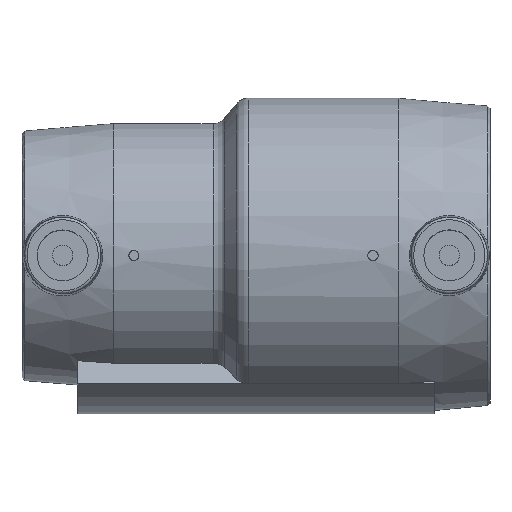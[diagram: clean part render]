
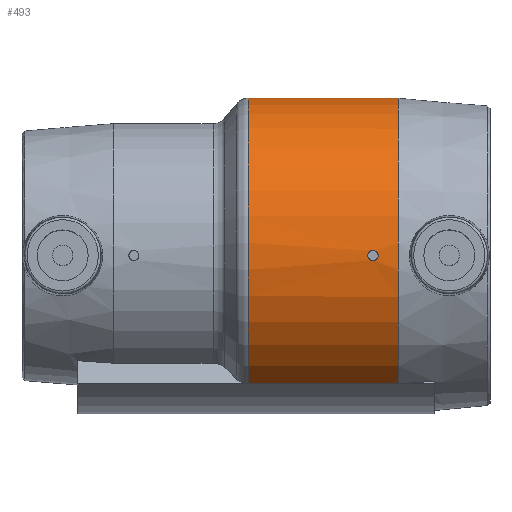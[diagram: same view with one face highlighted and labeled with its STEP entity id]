
A CAD part, top view. The second image highlights one B-rep face of the part: STEP entity #493.
In plain terms, the highlighted cylindrical face has radius 31 mm (diameter 62 mm), a partial arc.
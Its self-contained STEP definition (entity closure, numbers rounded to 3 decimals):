
#40=CYLINDRICAL_SURFACE('',#548,31.);
#53=LINE('',#829,#66);
#54=LINE('',#831,#67);
#66=VECTOR('',#632,1000.);
#67=VECTOR('',#633,1000.);
#80=CIRCLE('',#547,31.);
#81=CIRCLE('',#549,31.);
#120=ORIENTED_EDGE('',*,*,#240,.T.);
#121=ORIENTED_EDGE('',*,*,#241,.F.);
#122=ORIENTED_EDGE('',*,*,#239,.T.);
#123=ORIENTED_EDGE('',*,*,#242,.F.);
#124=ORIENTED_EDGE('',*,*,#243,.T.);
#239=EDGE_CURVE('',#297,#299,#80,.T.);
#240=EDGE_CURVE('',#300,#300,#344,.T.);
#241=EDGE_CURVE('',#297,#301,#53,.T.);
#242=EDGE_CURVE('',#302,#299,#54,.F.);
#243=EDGE_CURVE('',#302,#301,#81,.T.);
#297=VERTEX_POINT('',#810);
#299=VERTEX_POINT('',#814);
#300=VERTEX_POINT('',#828);
#301=VERTEX_POINT('',#830);
#302=VERTEX_POINT('',#832);
#344=B_SPLINE_CURVE_WITH_KNOTS('',3,(#817,#818,#819,#820,#821,#822,#823,
#824,#825,#826,#827),.UNSPECIFIED.,.T.,.F.,(1,1,1,1,1,1,1,1,1,1,1,1,1,1,
1),(-0.002,-0.002,-0.001,0.,
0.001,0.002,0.002,0.003,
0.004,0.005,0.005,0.006,
0.007,0.008,0.009),
 .UNSPECIFIED.);
#355=EDGE_LOOP('',(#120));
#356=EDGE_LOOP('',(#121,#122,#123,#124));
#421=FACE_BOUND('',#355,.T.);
#422=FACE_BOUND('',#356,.T.);
#493=ADVANCED_FACE('',(#421,#422),#40,.T.);
#547=AXIS2_PLACEMENT_3D('',#815,#628,#629);
#548=AXIS2_PLACEMENT_3D('',#816,#630,#631);
#549=AXIS2_PLACEMENT_3D('',#833,#634,#635);
#628=DIRECTION('',(-1.,0.,0.));
#629=DIRECTION('',(0.,0.,1.));
#630=DIRECTION('',(-1.,0.,0.));
#631=DIRECTION('',(0.,0.,1.));
#632=DIRECTION('',(-1.,0.,0.));
#633=DIRECTION('',(-1.,0.,0.));
#634=DIRECTION('',(1.,0.,0.));
#635=DIRECTION('',(0.,0.,-1.));
#810=CARTESIAN_POINT('',(33.,-25.193,18.064));
#814=CARTESIAN_POINT('',(33.,-31.,0.));
#815=CARTESIAN_POINT('',(33.,0.,0.));
#816=CARTESIAN_POINT('',(-60.,0.,0.));
#817=CARTESIAN_POINT('',(28.783,0.785,30.992));
#818=CARTESIAN_POINT('',(29.108,0.,31.004));
#819=CARTESIAN_POINT('',(28.783,-0.784,30.992));
#820=CARTESIAN_POINT('',(28.001,-1.108,30.98));
#821=CARTESIAN_POINT('',(27.217,-0.784,30.992));
#822=CARTESIAN_POINT('',(26.892,0.,31.004));
#823=CARTESIAN_POINT('',(27.216,0.783,30.992));
#824=CARTESIAN_POINT('',(27.999,1.108,30.98));
#825=CARTESIAN_POINT('',(28.783,0.785,30.992));
#826=CARTESIAN_POINT('',(29.108,0.,31.004));
#827=CARTESIAN_POINT('',(28.783,-0.784,30.992));
#828=CARTESIAN_POINT('',(29.,0.,31.));
#829=CARTESIAN_POINT('',(-60.,-25.193,18.064));
#830=CARTESIAN_POINT('',(3.442,-25.193,18.064));
#831=CARTESIAN_POINT('',(-60.,-31.,0.));
#832=CARTESIAN_POINT('',(3.442,-31.,0.));
#833=CARTESIAN_POINT('',(3.442,0.,0.));
